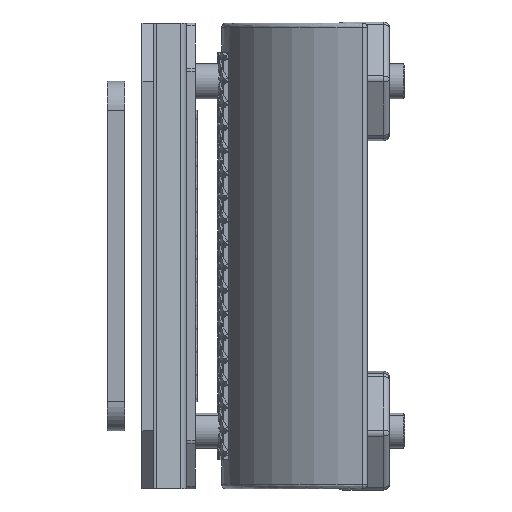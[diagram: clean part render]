
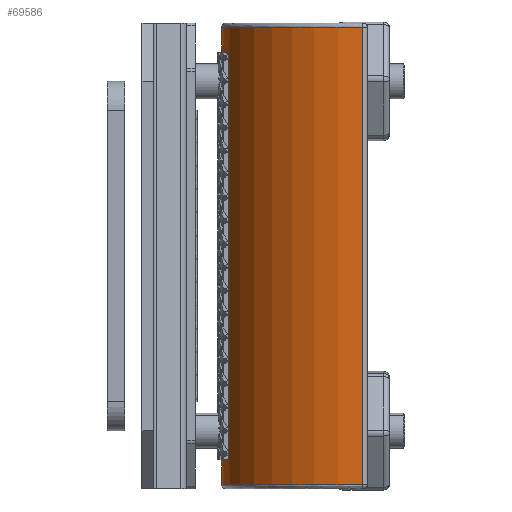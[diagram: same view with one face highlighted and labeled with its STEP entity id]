
A CAD part, left-side view. The second image highlights one B-rep face of the part: STEP entity #69586.
In plain terms, the highlighted cylindrical face has radius 25 mm (diameter 50 mm), a partial arc.
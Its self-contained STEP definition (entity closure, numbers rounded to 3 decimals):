
#592 = ORIENTED_EDGE ( 'NONE', *, *, #27273, .T. ) ;
#1250 = VECTOR ( 'NONE', #51763, 1000. ) ;
#5844 = VECTOR ( 'NONE', #28460, 1000. ) ;
#6313 = AXIS2_PLACEMENT_3D ( 'NONE', #55032, #16273, #61411 ) ;
#8394 = VERTEX_POINT ( 'NONE', #28107 ) ;
#9937 = CARTESIAN_POINT ( 'NONE',  ( 0., 0., 40. ) ) ;
#10433 = AXIS2_PLACEMENT_3D ( 'NONE', #9937, #49433, #15113 ) ;
#12922 = CARTESIAN_POINT ( 'NONE',  ( -7.5, 23.848, -35. ) ) ;
#13408 = CARTESIAN_POINT ( 'NONE',  ( -7.5, 23.848, 35. ) ) ;
#13676 = VECTOR ( 'NONE', #20883, 1000. ) ;
#13828 = LINE ( 'NONE', #22801, #5844 ) ;
#15113 = DIRECTION ( 'NONE',  ( -1., 0., 0. ) ) ;
#15148 = ORIENTED_EDGE ( 'NONE', *, *, #56331, .T. ) ;
#16273 = DIRECTION ( 'NONE',  ( 0., 0., -1. ) ) ;
#17168 = CIRCLE ( 'NONE', #55491, 25. ) ;
#18217 = EDGE_CURVE ( 'NONE', #41114, #28916, #33834, .T. ) ;
#19962 = EDGE_CURVE ( 'NONE', #55703, #42674, #29423, .T. ) ;
#20802 = EDGE_CURVE ( 'NONE', #46968, #33414, #52347, .T. ) ;
#20883 = DIRECTION ( 'NONE',  ( 0., 0., 1. ) ) ;
#21415 = EDGE_LOOP ( 'NONE', ( #58569, #42001, #31208, #26700 ) ) ;
#21634 = CARTESIAN_POINT ( 'NONE',  ( -24.988, 0.773, 40. ) ) ;
#22801 = CARTESIAN_POINT ( 'NONE',  ( 24.988, 0.773, 40. ) ) ;
#26247 = FACE_OUTER_BOUND ( 'NONE', #68673, .T. ) ;
#26700 = ORIENTED_EDGE ( 'NONE', *, *, #18217, .T. ) ;
#27155 = DIRECTION ( 'NONE',  ( 0., 0., -1. ) ) ;
#27273 = EDGE_CURVE ( 'NONE', #65874, #8394, #13828, .T. ) ;
#27300 = DIRECTION ( 'NONE',  ( 0., 0., 1. ) ) ;
#28107 = CARTESIAN_POINT ( 'NONE',  ( 24.988, 0.773, -39.25 ) ) ;
#28460 = DIRECTION ( 'NONE',  ( 0., 0., -1. ) ) ;
#28916 = VERTEX_POINT ( 'NONE', #13408 ) ;
#29165 = CARTESIAN_POINT ( 'NONE',  ( -24.988, 0.773, -39.25 ) ) ;
#29423 = CIRCLE ( 'NONE', #6313, 25. ) ;
#29462 = LINE ( 'NONE', #33931, #1250 ) ;
#31208 = ORIENTED_EDGE ( 'NONE', *, *, #41827, .T. ) ;
#32486 = ORIENTED_EDGE ( 'NONE', *, *, #71971, .T. ) ;
#32707 = DIRECTION ( 'NONE',  ( -1., 0., 0. ) ) ;
#32870 = CARTESIAN_POINT ( 'NONE',  ( 7.5, 23.848, 35. ) ) ;
#33414 = VERTEX_POINT ( 'NONE', #51932 ) ;
#33834 = CIRCLE ( 'NONE', #50638, 25. ) ;
#33931 = CARTESIAN_POINT ( 'NONE',  ( -7.5, 23.848, 40. ) ) ;
#38580 = DIRECTION ( 'NONE',  ( 0., 0., 1. ) ) ;
#41114 = VERTEX_POINT ( 'NONE', #32870 ) ;
#41827 = EDGE_CURVE ( 'NONE', #42674, #41114, #59545, .T. ) ;
#42001 = ORIENTED_EDGE ( 'NONE', *, *, #19962, .T. ) ;
#42674 = VERTEX_POINT ( 'NONE', #60060 ) ;
#42843 = CARTESIAN_POINT ( 'NONE',  ( 24.988, 0.773, 39.25 ) ) ;
#46968 = VERTEX_POINT ( 'NONE', #29165 ) ;
#48810 = CARTESIAN_POINT ( 'NONE',  ( 7.5, 23.848, 40. ) ) ;
#48824 = CARTESIAN_POINT ( 'NONE',  ( 0., 0., -39.25 ) ) ;
#49409 = CARTESIAN_POINT ( 'NONE',  ( 0., 0., 39.25 ) ) ;
#49433 = DIRECTION ( 'NONE',  ( 0., 0., -1. ) ) ;
#49951 = DIRECTION ( 'NONE',  ( -1., 0., 0. ) ) ;
#50638 = AXIS2_PLACEMENT_3D ( 'NONE', #72358, #38580, #49951 ) ;
#51763 = DIRECTION ( 'NONE',  ( 0., 0., -1. ) ) ;
#51874 = AXIS2_PLACEMENT_3D ( 'NONE', #48824, #27300, #32707 ) ;
#51932 = CARTESIAN_POINT ( 'NONE',  ( -24.988, 0.773, 39.25 ) ) ;
#52347 = LINE ( 'NONE', #21634, #65518 ) ;
#54518 = CYLINDRICAL_SURFACE ( 'NONE', #10433, 25. ) ;
#55032 = CARTESIAN_POINT ( 'NONE',  ( 0., 0., -35. ) ) ;
#55491 = AXIS2_PLACEMENT_3D ( 'NONE', #49409, #27155, #61188 ) ;
#55703 = VERTEX_POINT ( 'NONE', #12922 ) ;
#56331 = EDGE_CURVE ( 'NONE', #8394, #46968, #57137, .T. ) ;
#57137 = CIRCLE ( 'NONE', #51874, 25. ) ;
#58569 = ORIENTED_EDGE ( 'NONE', *, *, #60046, .T. ) ;
#59545 = LINE ( 'NONE', #48810, #13676 ) ;
#60046 = EDGE_CURVE ( 'NONE', #28916, #55703, #29462, .T. ) ;
#60060 = CARTESIAN_POINT ( 'NONE',  ( 7.5, 23.848, -35. ) ) ;
#61072 = ORIENTED_EDGE ( 'NONE', *, *, #20802, .T. ) ;
#61188 = DIRECTION ( 'NONE',  ( -1., 0., 0. ) ) ;
#61411 = DIRECTION ( 'NONE',  ( -1., 0., 0. ) ) ;
#65518 = VECTOR ( 'NONE', #71943, 1000. ) ;
#65874 = VERTEX_POINT ( 'NONE', #42843 ) ;
#65932 = FACE_BOUND ( 'NONE', #21415, .T. ) ;
#68673 = EDGE_LOOP ( 'NONE', ( #592, #15148, #61072, #32486 ) ) ;
#69586 = ADVANCED_FACE ( 'NONE', ( #26247, #65932 ), #54518, .T. ) ;
#71943 = DIRECTION ( 'NONE',  ( 0., 0., 1. ) ) ;
#71971 = EDGE_CURVE ( 'NONE', #33414, #65874, #17168, .T. ) ;
#72358 = CARTESIAN_POINT ( 'NONE',  ( 0., 0., 35. ) ) ;
